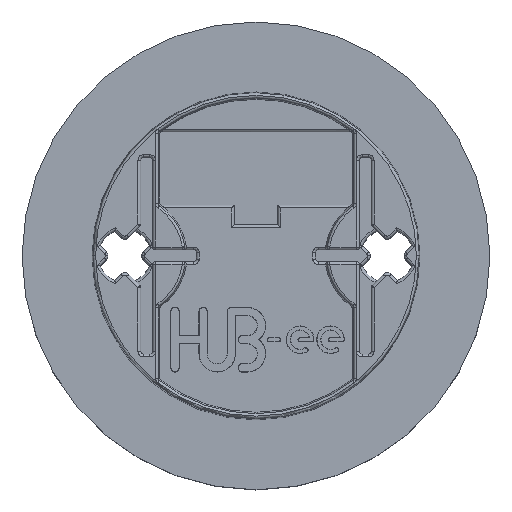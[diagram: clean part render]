
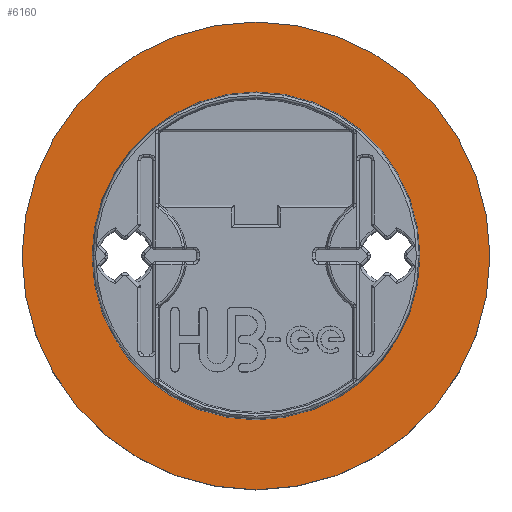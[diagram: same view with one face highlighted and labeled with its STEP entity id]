
A CAD part, top view. The second image highlights one B-rep face of the part: STEP entity #6160.
In plain terms, the highlighted planar face has unit normal (0, 0, 1).
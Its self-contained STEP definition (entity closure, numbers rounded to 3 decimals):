
#2579 = EDGE_LOOP ( 'NONE', ( #5036, #5038 ) ) ;
#2580 = EDGE_LOOP ( 'NONE', ( #5035, #5039 ) ) ;
#3523 = VERTEX_POINT ( 'NONE', #12025 ) ;
#3524 = VERTEX_POINT ( 'NONE', #12026 ) ;
#3527 = VERTEX_POINT ( 'NONE', #12029 ) ;
#3528 = VERTEX_POINT ( 'NONE', #12030 ) ;
#4418 = EDGE_CURVE ( 'NONE', #3523, #3524, #11103, .T. ) ;
#4424 = EDGE_CURVE ( 'NONE', #3527, #3528, #11132, .T. ) ;
#5035 = ORIENTED_EDGE ( 'NONE', *, *, #6056, .T. ) ;
#5036 = ORIENTED_EDGE ( 'NONE', *, *, #6058, .F. ) ;
#5038 = ORIENTED_EDGE ( 'NONE', *, *, #4418, .F. ) ;
#5039 = ORIENTED_EDGE ( 'NONE', *, *, #4424, .T. ) ;
#6056 = EDGE_CURVE ( 'NONE', #3528, #3527, #14529, .T. ) ;
#6058 = EDGE_CURVE ( 'NONE', #3524, #3523, #14536, .T. ) ;
#6160 = ADVANCED_FACE ( 'NONE', ( #7829, #7830 ), #15295, .T. ) ;
#7829 = FACE_BOUND ( 'NONE', #2579, .T. ) ;
#7830 = FACE_OUTER_BOUND ( 'NONE', #2580, .T. ) ;
#11103 = CIRCLE ( 'NONE', #11127, 15. ) ;
#11127 = AXIS2_PLACEMENT_3D ( 'NONE', #12513, #12514, #12515 ) ;
#11132 = CIRCLE ( 'NONE', #11134, 21.4 ) ;
#11134 = AXIS2_PLACEMENT_3D ( 'NONE', #12527, #12528, #12529 ) ;
#12025 = CARTESIAN_POINT ( 'NONE',  ( -15., 0., 5. ) ) ;
#12026 = CARTESIAN_POINT ( 'NONE',  ( 15., 0., 5. ) ) ;
#12029 = CARTESIAN_POINT ( 'NONE',  ( 21.4, 0., 5. ) ) ;
#12030 = CARTESIAN_POINT ( 'NONE',  ( -21.4, 0., 5. ) ) ;
#12513 = CARTESIAN_POINT ( 'NONE',  ( 0., 0., 5. ) ) ;
#12514 = DIRECTION ( 'NONE',  ( 0., 0., 1. ) ) ;
#12515 = DIRECTION ( 'NONE',  ( 1., 0., 0. ) ) ;
#12527 = CARTESIAN_POINT ( 'NONE',  ( 0., 0., 5. ) ) ;
#12528 = DIRECTION ( 'NONE',  ( 0., 0., 1. ) ) ;
#12529 = DIRECTION ( 'NONE',  ( 1., 0., 0. ) ) ;
#14293 = CARTESIAN_POINT ( 'NONE',  ( 0., 0., 5. ) ) ;
#14294 = DIRECTION ( 'NONE',  ( 0., 0., 1. ) ) ;
#14295 = DIRECTION ( 'NONE',  ( 1., 0., 0. ) ) ;
#14299 = CARTESIAN_POINT ( 'NONE',  ( 0., 0., 5. ) ) ;
#14300 = DIRECTION ( 'NONE',  ( 0., 0., 1. ) ) ;
#14301 = DIRECTION ( 'NONE',  ( 1., 0., 0. ) ) ;
#14529 = CIRCLE ( 'NONE', #14542, 21.4 ) ;
#14536 = CIRCLE ( 'NONE', #14545, 15. ) ;
#14542 = AXIS2_PLACEMENT_3D ( 'NONE', #14293, #14294, #14295 ) ;
#14545 = AXIS2_PLACEMENT_3D ( 'NONE', #14299, #14300, #14301 ) ;
#14664 = AXIS2_PLACEMENT_3D ( 'NONE', #15296, #15297, #15298 ) ;
#15295 = PLANE ( 'NONE',  #14664 ) ;
#15296 = CARTESIAN_POINT ( 'NONE',  ( 0., 0., 5. ) ) ;
#15297 = DIRECTION ( 'NONE',  ( 0., 0., 1. ) ) ;
#15298 = DIRECTION ( 'NONE',  ( 1., 0., 0. ) ) ;
